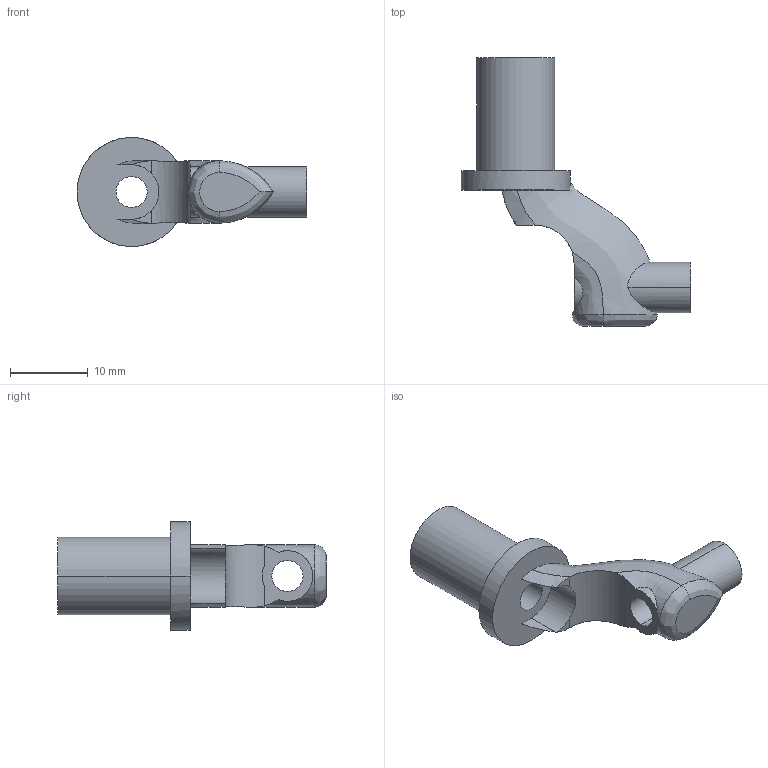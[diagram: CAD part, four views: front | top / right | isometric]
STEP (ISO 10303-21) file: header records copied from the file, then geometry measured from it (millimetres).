
FILE_DESCRIPTION((''),'2;1');
FILE_NAME('PROPELLERFUEHRUNG','2017-09-07T',('saex'),(''),'PRO/ENGINEER BY PARAMETRIC TECHNOLOGY CORPORATION, 2016010','PRO/ENGINEER BY PARAMETRIC TECHNOLOGY CORPORATION, 2016010','');
FILE_SCHEMA(('CONFIG_CONTROL_DESIGN'));
Length unit declared in the file: millimetre
Products named in the file (1): PROPELLERFUEHRUNG
Bounding box: 29.5 x 34.5 x 14 mm (x, y, z)
Volume: 2288.5 mm3; surface area: 1976.2 mm2
Topology: 1 solids, 1 shells, 33 faces, 86 edges, 56 vertices
Faces by surface type: cylinder 15, plane 10, bspline 8
Entity records: 2300 total; most frequent: CARTESIAN_POINT 1494, ORIENTED_EDGE 172, DIRECTION 120, EDGE_CURVE 86, VERTEX_POINT 56, AXIS2_PLACEMENT_3D 51, B_SPLINE_CURVE_WITH_KNOTS 42, EDGE_LOOP 38
